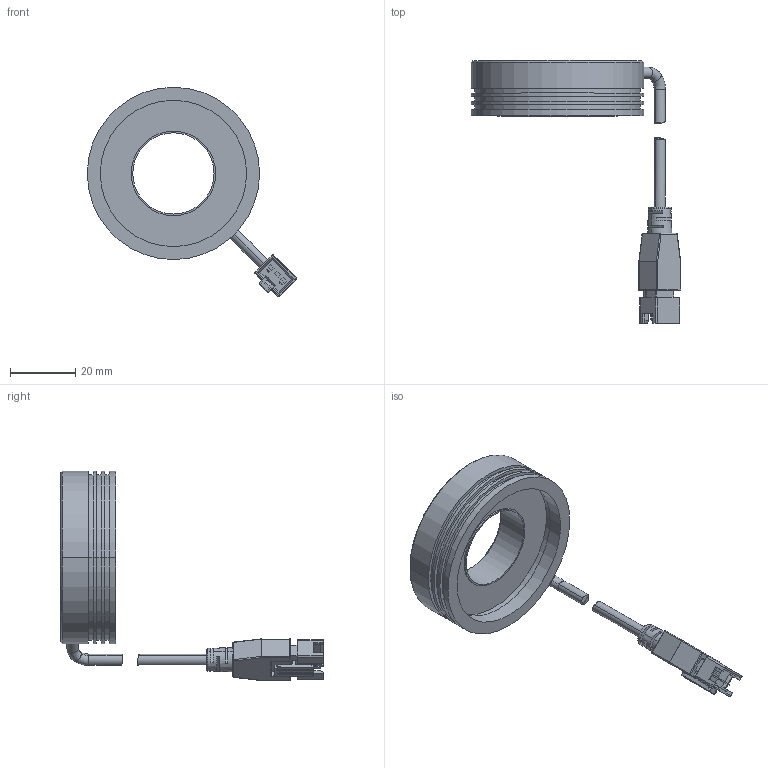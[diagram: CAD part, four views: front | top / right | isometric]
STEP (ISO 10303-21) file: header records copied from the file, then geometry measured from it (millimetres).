
FILE_DESCRIPTION((''),'2;1');
FILE_NAME('MV-LRDS-53-90_ASM','2019-09-19T',('rs-zhongwm'),(''),'PRO/ENGINEER BY PARAMETRIC TECHNOLOGY CORPORATION, 2010100','PRO/ENGINEER BY PARAMETRIC TECHNOLOGY CORPORATION, 2010100','');
FILE_SCHEMA(('CONFIG_CONTROL_DESIGN'));
Length unit declared in the file: millimetre
Products named in the file (5): PRT0001_1; LINE_TOU_1; BODY_12_1; XIANLAN-_ASM_1_ASM; MV-LRDS-53-90_ASM
Assembly tree (4 placements, depth 3):
  MV-LRDS-53-90_ASM
    PRT0001_1
    XIANLAN-_ASM_1_ASM
      LINE_TOU_1
      BODY_12_1
Bounding box: 64.42 x 80.8 x 64.42 mm (x, y, z)
Volume: 23511.5 mm3; surface area: 11835.2 mm2
Topology: 3 solids, 7 shells, 287 faces, 720 edges, 449 vertices
Faces by surface type: plane 142, cylinder 103, cone 14, torus 12, bspline 8, sphere 8
Entity records: 8863 total; most frequent: CARTESIAN_POINT 1862, DIRECTION 1486, ORIENTED_EDGE 1392, EDGE_CURVE 704, AXIS2_PLACEMENT_3D 536, VERTEX_POINT 449, VECTOR 414, LINE 414
